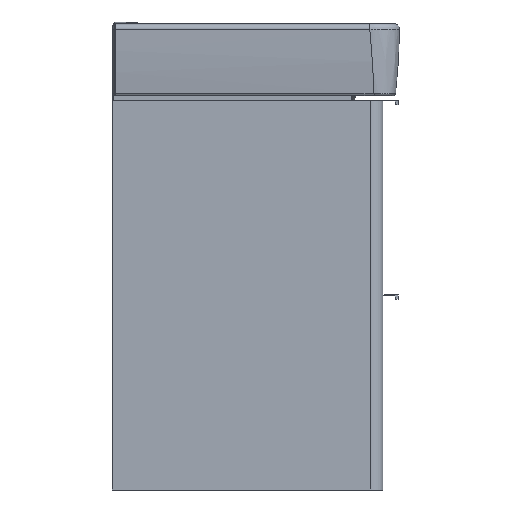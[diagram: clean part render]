
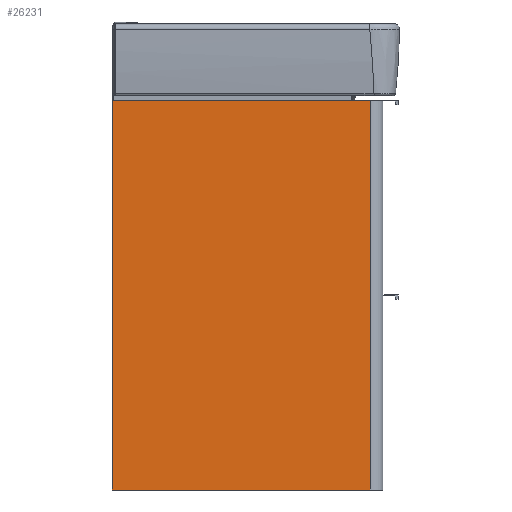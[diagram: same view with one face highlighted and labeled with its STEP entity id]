
A CAD part, left-side view. The second image highlights one B-rep face of the part: STEP entity #26231.
In plain terms, the highlighted planar face has unit normal (-1, 0, 0).
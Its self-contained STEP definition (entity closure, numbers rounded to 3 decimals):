
#5734=FACE_OUTER_BOUND('',#6748,.T.);
#6748=EDGE_LOOP('',(#19836,#19837,#19838,#19839));
#7911=LINE('',#34425,#9473);
#7913=LINE('',#34431,#9475);
#7917=LINE('',#34439,#9479);
#7918=LINE('',#34440,#9480);
#9473=VECTOR('',#29454,10.);
#9475=VECTOR('',#29460,10.);
#9479=VECTOR('',#29466,10.);
#9480=VECTOR('',#29467,10.);
#11025=VERTEX_POINT('',#34422);
#11026=VERTEX_POINT('',#34424);
#11028=VERTEX_POINT('',#34430);
#11031=VERTEX_POINT('',#34438);
#15198=EDGE_CURVE('',#11025,#11026,#7911,.T.);
#15201=EDGE_CURVE('',#11026,#11028,#7913,.T.);
#15205=EDGE_CURVE('',#11031,#11025,#7917,.T.);
#15206=EDGE_CURVE('',#11028,#11031,#7918,.T.);
#19836=ORIENTED_EDGE('',*,*,#15198,.F.);
#19837=ORIENTED_EDGE('',*,*,#15205,.F.);
#19838=ORIENTED_EDGE('',*,*,#15206,.F.);
#19839=ORIENTED_EDGE('',*,*,#15201,.F.);
#25736=PLANE('',#27687);
#26231=ADVANCED_FACE('',(#5734),#25736,.T.);
#27687=AXIS2_PLACEMENT_3D('',#34437,#29464,#29465);
#29454=DIRECTION('',(0.,0.,-1.));
#29460=DIRECTION('',(0.,1.,0.));
#29464=DIRECTION('center_axis',(-1.,0.,0.));
#29465=DIRECTION('ref_axis',(0.,-1.,0.));
#29466=DIRECTION('',(0.,-1.,0.));
#29467=DIRECTION('',(0.,0.,1.));
#34422=CARTESIAN_POINT('',(-285.,-162.,515.));
#34424=CARTESIAN_POINT('',(-285.,-162.,0.));
#34425=CARTESIAN_POINT('',(-285.,-162.,0.));
#34430=CARTESIAN_POINT('',(-285.,179.,0.));
#34431=CARTESIAN_POINT('',(-285.,-179.,0.));
#34437=CARTESIAN_POINT('Origin',(-285.,179.,0.));
#34438=CARTESIAN_POINT('',(-285.,179.,515.));
#34439=CARTESIAN_POINT('',(-285.,-179.,515.));
#34440=CARTESIAN_POINT('',(-285.,179.,0.));
